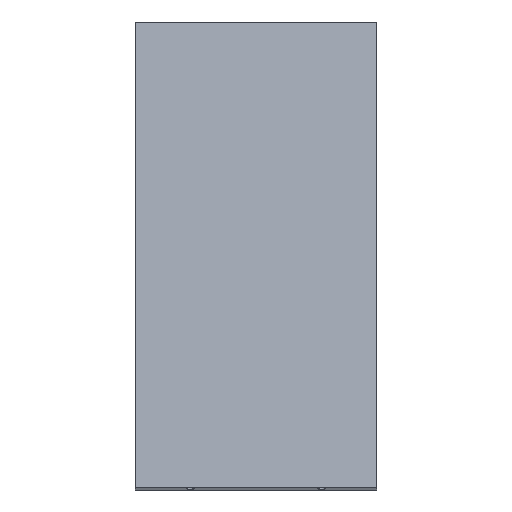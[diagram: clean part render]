
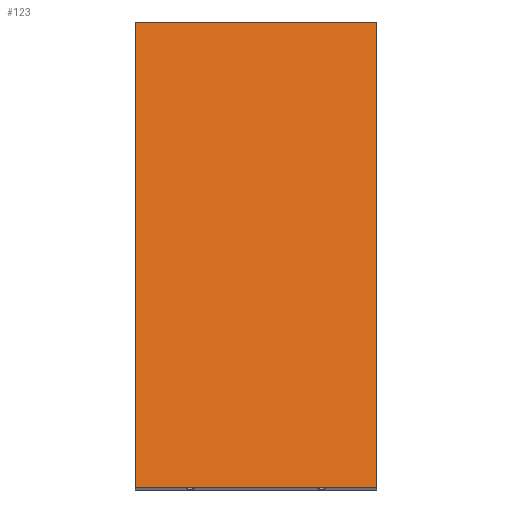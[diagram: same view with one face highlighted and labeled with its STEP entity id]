
A CAD part, top view. The second image highlights one B-rep face of the part: STEP entity #123.
In plain terms, the highlighted planar face has unit normal (0, 0.174, 0.985).
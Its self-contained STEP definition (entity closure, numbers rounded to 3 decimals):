
#67=CARTESIAN_POINT('',(-285.,-127.283,217.703));
#68=VERTEX_POINT('',#67);
#75=CARTESIAN_POINT('',(-285.,-409.922,267.54));
#76=VERTEX_POINT('',#75);
#77=CARTESIAN_POINT('',(-285.,-127.283,217.703));
#78=DIRECTION('',(0.0,-0.985,0.174));
#79=VECTOR('',#78,1.);
#80=LINE('',#77,#79);
#81=EDGE_CURVE('',#68,#76,#80,.T.);
#93=CARTESIAN_POINT('',(-285.,-127.283,217.703));
#94=DIRECTION('',(0.0,0.174,0.985));
#95=DIRECTION('',(-1.0,0.0,0.0));
#96=AXIS2_PLACEMENT_3D('',#93,#94,#95);
#97=PLANE('',#96);
#98=CARTESIAN_POINT('',(-432.0,-127.283,217.703));
#99=VERTEX_POINT('',#98);
#100=CARTESIAN_POINT('',(-285.0,-127.283,217.703));
#101=DIRECTION('',(-1.0,0.,0.));
#102=VECTOR('',#101,1.);
#103=LINE('',#100,#102);
#104=EDGE_CURVE('',#68,#99,#103,.T.);
#105=ORIENTED_EDGE('',*,*,#104,.T.);
#106=CARTESIAN_POINT('',(-432.0,-409.922,267.54));
#107=VERTEX_POINT('',#106);
#108=CARTESIAN_POINT('',(-432.0,-127.283,217.703));
#109=DIRECTION('',(0.0,-0.985,0.174));
#110=VECTOR('',#109,1.);
#111=LINE('',#108,#110);
#112=EDGE_CURVE('',#99,#107,#111,.T.);
#113=ORIENTED_EDGE('',*,*,#112,.T.);
#114=CARTESIAN_POINT('',(-285.0,-409.922,267.54));
#115=DIRECTION('',(-1.0,0.,0.));
#116=VECTOR('',#115,1.);
#117=LINE('',#114,#116);
#118=EDGE_CURVE('',#76,#107,#117,.T.);
#119=ORIENTED_EDGE('',*,*,#118,.F.);
#120=ORIENTED_EDGE('',*,*,#81,.F.);
#121=EDGE_LOOP('',(#105,#113,#119,#120));
#122=FACE_BOUND('',#121,.T.);
#123=ADVANCED_FACE('',(#122),#97,.T.);
